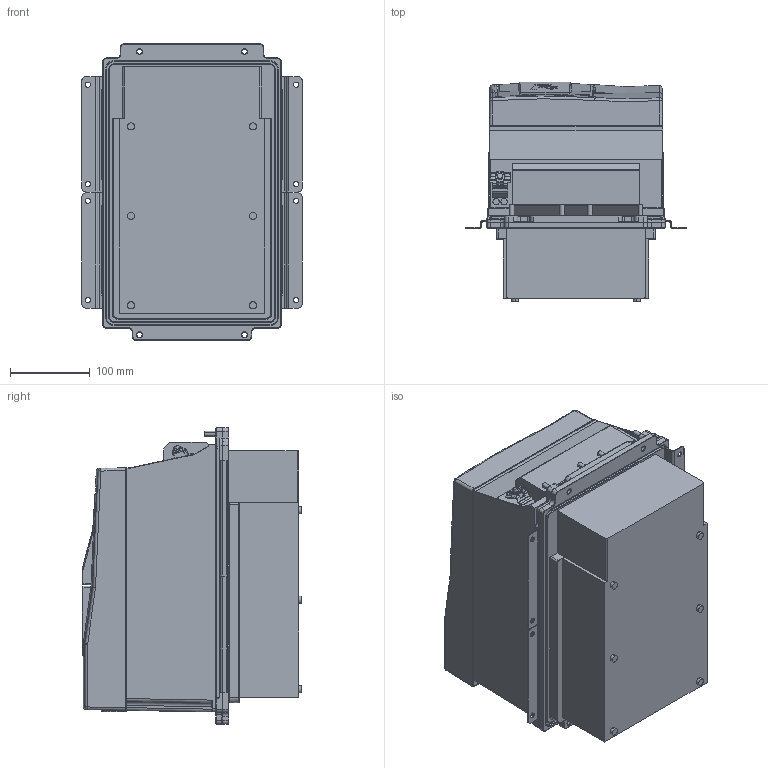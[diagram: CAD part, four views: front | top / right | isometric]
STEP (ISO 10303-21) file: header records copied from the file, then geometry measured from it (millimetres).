
FILE_DESCRIPTION (( 'STEP AP214' ), '1' );
FILE_NAME ('F6-4TR5-A010.STEP', '2020-12-08T13:15:15', ( '' ), ( '' ), 'SwSTEP 2.0', 'SolidWorks 2019', '' );
FILE_SCHEMA (( 'AUTOMOTIVE_DESIGN' ));
Length unit declared in the file: millimetre
Products named in the file (11): F6-4TR5-A010; 10032600_000_Kundenmodell; 10059765_000; 10045811_000_Leistungsteil TR5 (Kundenmodell); 10044643_000_Kundenmodell; 10061644_000_Deckel (Kundenmodell); 10061645_000; 10058448_000; 10061787_000; 10059761_000; 10059764_000_Blindabdeckung (Kundenmodell)
Assembly tree (10 placements, depth 4):
  F6-4TR5-A010
    10045811_000_Leistungsteil TR5 (Kundenmodell)
      10061787_000
    10032600_000_Kundenmodell
      10061644_000_Deckel (Kundenmodell)
        10061645_000
      10058448_000
    10044643_000_Kundenmodell
      10059764_000_Blindabdeckung (Kundenmodell)
        10059765_000
      10059761_000
Bounding box: 277 x 276.2 x 373 mm (x, y, z)
Volume: 17476944.3 mm3; surface area: 900514.5 mm2
Topology: 14 solids, 32 shells, 2613 faces, 6679 edges, 4153 vertices
Faces by surface type: plane 1090, cylinder 672, bspline 527, torus 177, cone 107, sphere 40
Entity records: 100053 total; most frequent: CARTESIAN_POINT 39795, ORIENTED_EDGE 13240, DIRECTION 11205, EDGE_CURVE 6620, VERTEX_POINT 4151, AXIS2_PLACEMENT_3D 3759, VECTOR 3687, LINE 3687
